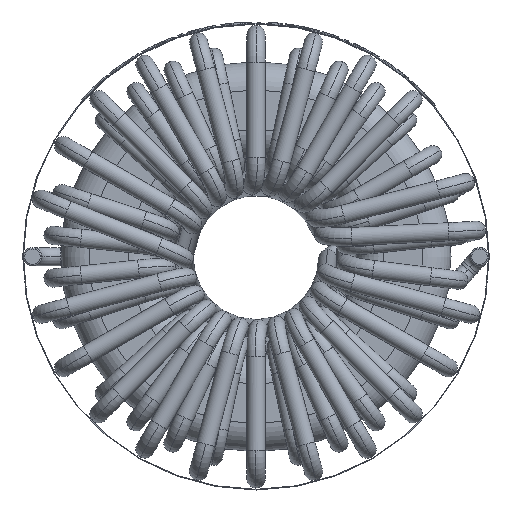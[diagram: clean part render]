
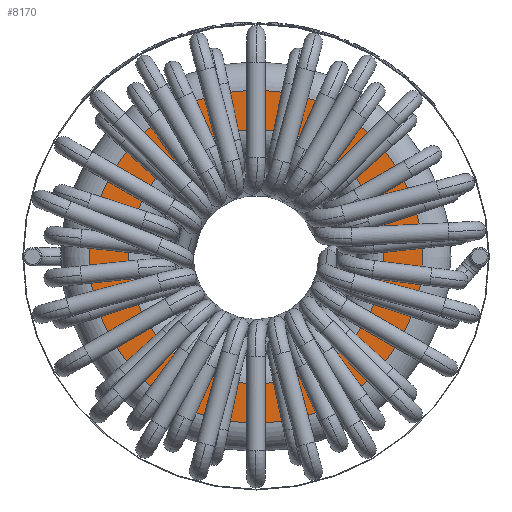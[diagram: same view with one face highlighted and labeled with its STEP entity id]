
A CAD part, front view. The second image highlights one B-rep face of the part: STEP entity #8170.
In plain terms, the highlighted planar face has unit normal (0, -1, 0).
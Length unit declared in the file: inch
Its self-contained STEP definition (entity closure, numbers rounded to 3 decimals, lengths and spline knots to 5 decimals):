
#283 = CARTESIAN_POINT ( 'NONE',  ( 0., -0.23602, -0.3563 ) ) ;
#918 = FACE_BOUND ( 'NONE', #29841, .T. ) ;
#2699 = CIRCLE ( 'NONE', #18856, 0.46654 ) ;
#3310 = CARTESIAN_POINT ( 'NONE',  ( 0., -0.23602, 0. ) ) ;
#3372 = DIRECTION ( 'NONE',  ( 0., 1., 0. ) ) ;
#3614 = EDGE_LOOP ( 'NONE', ( #21039, #10384 ) ) ;
#5704 = CIRCLE ( 'NONE', #19098, 0.3563 ) ;
#6782 = DIRECTION ( 'NONE',  ( 0., 0., 1. ) ) ;
#6948 = CARTESIAN_POINT ( 'NONE',  ( 0., -0.23602, -0.46654 ) ) ;
#8170 = ADVANCED_FACE ( 'NONE', ( #29964, #918 ), #30480, .F. ) ;
#10384 = ORIENTED_EDGE ( 'NONE', *, *, #42941, .T. ) ;
#12020 = VERTEX_POINT ( 'NONE', #22967 ) ;
#12504 = AXIS2_PLACEMENT_3D ( 'NONE', #23530, #27239, #34245 ) ;
#13309 = VERTEX_POINT ( 'NONE', #34368 ) ;
#16277 = DIRECTION ( 'NONE',  ( 0., 0., 1. ) ) ;
#17338 = DIRECTION ( 'NONE',  ( 0., 0., 1. ) ) ;
#18856 = AXIS2_PLACEMENT_3D ( 'NONE', #19643, #22761, #40369 ) ;
#19098 = AXIS2_PLACEMENT_3D ( 'NONE', #24552, #3372, #6782 ) ;
#19643 = CARTESIAN_POINT ( 'NONE',  ( 0., -0.23602, 0. ) ) ;
#19748 = EDGE_CURVE ( 'NONE', #34172, #12020, #5704, .T. ) ;
#20864 = AXIS2_PLACEMENT_3D ( 'NONE', #3310, #38671, #17338 ) ;
#20981 = CIRCLE ( 'NONE', #20864, 0.46654 ) ;
#21039 = ORIENTED_EDGE ( 'NONE', *, *, #37853, .T. ) ;
#22761 = DIRECTION ( 'NONE',  ( 0., -1., 0. ) ) ;
#22967 = CARTESIAN_POINT ( 'NONE',  ( 0., -0.23602, 0.3563 ) ) ;
#23453 = DIRECTION ( 'NONE',  ( 0., 1., 0. ) ) ;
#23530 = CARTESIAN_POINT ( 'NONE',  ( 0., -0.23602, 0. ) ) ;
#24552 = CARTESIAN_POINT ( 'NONE',  ( 0., -0.23602, 0. ) ) ;
#25190 = VERTEX_POINT ( 'NONE', #6948 ) ;
#25445 = AXIS2_PLACEMENT_3D ( 'NONE', #37605, #23453, #16277 ) ;
#27239 = DIRECTION ( 'NONE',  ( 0., 1., 0. ) ) ;
#29300 = ORIENTED_EDGE ( 'NONE', *, *, #19748, .T. ) ;
#29841 = EDGE_LOOP ( 'NONE', ( #31081, #29300 ) ) ;
#29964 = FACE_OUTER_BOUND ( 'NONE', #3614, .T. ) ;
#30480 = PLANE ( 'NONE',  #25445 ) ;
#31081 = ORIENTED_EDGE ( 'NONE', *, *, #43201, .T. ) ;
#34172 = VERTEX_POINT ( 'NONE', #283 ) ;
#34245 = DIRECTION ( 'NONE',  ( 0., 0., 1. ) ) ;
#34368 = CARTESIAN_POINT ( 'NONE',  ( 0., -0.23602, 0.46654 ) ) ;
#37605 = CARTESIAN_POINT ( 'NONE',  ( 0., -0.23602, 0. ) ) ;
#37853 = EDGE_CURVE ( 'NONE', #13309, #25190, #2699, .T. ) ;
#38671 = DIRECTION ( 'NONE',  ( 0., -1., 0. ) ) ;
#40369 = DIRECTION ( 'NONE',  ( 0., 0., 1. ) ) ;
#41063 = CIRCLE ( 'NONE', #12504, 0.3563 ) ;
#42941 = EDGE_CURVE ( 'NONE', #25190, #13309, #20981, .T. ) ;
#43201 = EDGE_CURVE ( 'NONE', #12020, #34172, #41063, .T. ) ;
